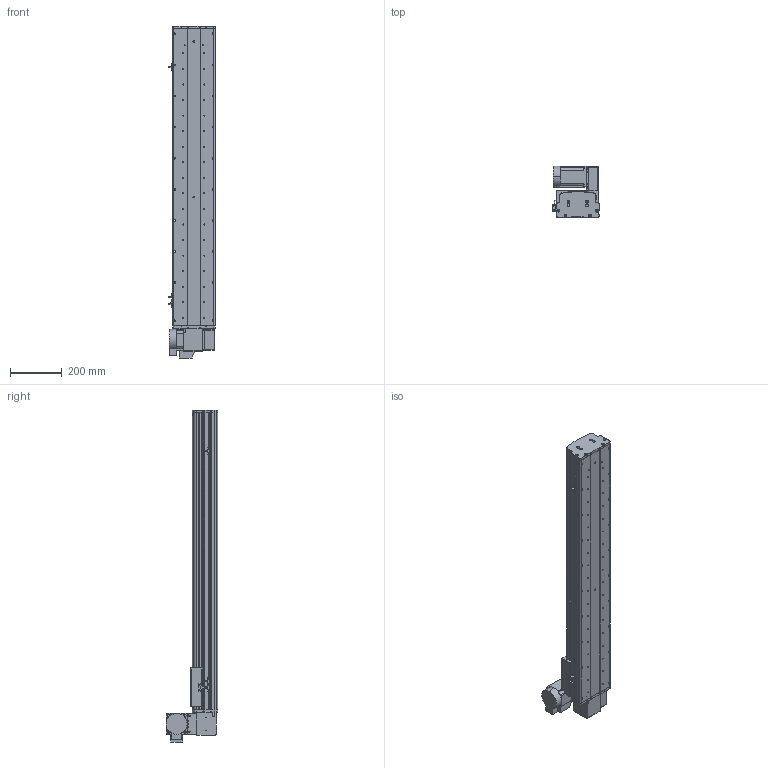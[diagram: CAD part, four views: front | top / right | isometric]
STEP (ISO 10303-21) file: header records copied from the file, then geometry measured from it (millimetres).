
FILE_DESCRIPTION (( 'STEP AP214' ), '1' );
FILE_NAME ('KSD165B-S900-MRU-CM.STEP', '2017-10-17T02:34:38', ( '微软用户' ), ( '微软中国' ), 'SwSTEP 2.0', 'SolidWorks 2014', '' );
FILE_SCHEMA (( 'AUTOMOTIVE_DESIGN' ));
Length unit declared in the file: millimetre
Products named in the file (17): KSD165模组-同步带-防撞垫2; KSD165模组同步带-防撞垫1; KSD165耀郪-ヶ傷啣1-肮祭湍; KSD165模组-后端板1-同步带; KSD165模组-同步带滑动座-最新版; KSD165B-S900-MRU-CM; 130宽模组马达安装板连板上下折丝杆同步带; 130宽模组保护罩上下左右折-同步带; HTPA26S5M250-A-H8 750W萇儂蚚; HTPA26S5M250-A-H8 400W萇儂蚚 ; KSD165模组-同步带防尘盖1-900行程-最新版; KSD165模组同步带底板-900行程-最新; 拸秶雄ん750W侜督萇儂; 165宽马达安装板同步带右; U倰嫖萇假蚾璃; U倰嫖萇EEㄜSX672; 覜茼え68遵圉猾敕
Assembly tree (20 placements, depth 2):
  KSD165B-S900-MRU-CM
    KSD165模组-同步带滑动座-最新版
    KSD165模组-后端板1-同步带
    KSD165耀郪-ヶ傷啣1-肮祭湍
    KSD165模组同步带-防撞垫1
    KSD165模组-同步带-防撞垫2
    覜茼え68遵圉猾敕
    U倰嫖萇EEㄜSX672  x3
    U倰嫖萇假蚾璃  x3
    165宽马达安装板同步带右
    拸秶雄ん750W侜督萇儂
    KSD165模组同步带底板-900行程-最新
    KSD165模组-同步带防尘盖1-900行程-最新版
    HTPA26S5M250-A-H8 400W萇儂蚚 
    HTPA26S5M250-A-H8 750W萇儂蚚
    130宽模组保护罩上下左右折-同步带
    130宽模组马达安装板连板上下折丝杆同步带
Bounding box: 178.7 x 198 x 1280.5 mm (x, y, z)
Volume: 7466128 mm3; surface area: 1734094.1 mm2
Topology: 21 solids, 21 shells, 1957 faces, 5526 edges, 3608 vertices
Faces by surface type: cylinder 1259, plane 586, cone 112
Entity records: 63532 total; most frequent: CARTESIAN_POINT 13024, DIRECTION 10442, ORIENTED_EDGE 9712, EDGE_CURVE 4856, AXIS2_PLACEMENT_3D 4096, VERTEX_POINT 3200, CIRCLE 2336, LINE 2250
